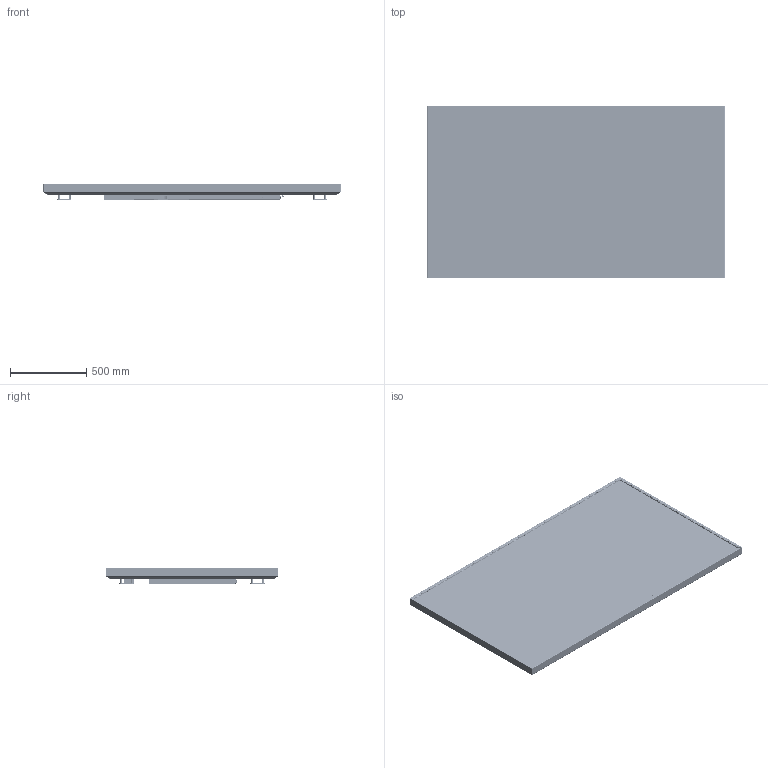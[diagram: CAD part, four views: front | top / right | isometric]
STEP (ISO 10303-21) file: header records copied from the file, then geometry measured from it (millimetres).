
FILE_DESCRIPTION (( 'STEP AP203' ), '1' );
FILE_NAME ('URX85-ERO-T Panel 3D.STEP', '2022-08-16T21:34:06', ( '' ), ( '' ), 'SwSTEP 2.0', 'SolidWorks 2021', '' );
FILE_SCHEMA (( 'CONFIG_CONTROL_DESIGN' ));
Length unit declared in the file: millimetre
Products named in the file (66): 591-0365_bonded; 572-5398; B18.6.7M - M3 x 0.5 x 6 Type I Cross Recessed FHMS --6N_B18.6.7M - M3 x 0.5 x 6 Type I Cross Recessed FHMS --6N; 572-5630; 572-4464; assy_module_p850qvn02v1_v3_190621_Glass_Only; PEM S-M3-1 ZI--N_PEM S-M3-1 ZI--N; 540-0192; PLP2-125 (Lens); 572-5387_Masked; b18.22m - plain washer, 3 mm, wide_B18.22M - Plain washer, 3 mm, wide; 572-5378; BYEASY_UH74; 572-5633; 572-5396_Masked; 105-0022-00; pem bso-3.5m3-14 zi--n_PEM BSO-3.5M3-14 ZI--N; PEM TPS-4mm-16; PEM S-M4-1 ZI--N; PF11MF-M4-1; b18.3.5m - 6 x 1.0 x 40 socket fchs  -- 40n_B18.3.5M - 6 x 1.0 x 40 Socket FCHS  -- 40N; 105-0020-00; pem s-m3-0 zi--n_PEM S-M3-0 ZI--N; 572-5345; 572-5634; 572-5519; RIVET - 093 C''SINK; b18.6.7m - m4 x 0.7 x 6 type i cross recessed fhms --6n blk_B18.6.7M - M4 x 0.7 x 6 Type I Cross Recessed FHMS --6N; 10SS6-B2AHR-QPB; pem so-m3-3 zi--n_PEM SO-M3-3 ZI--N; b18.6.7m - m3 x 0.5 x 6 type i cross recessed phms --6n blk_B18.6.7M - M3 x 0.5 x 6 Type I Cross Recessed PHMS --6N; b18.6.7m - m4 x 0.7 x 6 type i cross recessed phms --6n blk_B18.6.7M - M4 x 0.7 x 6 Type I Cross Recessed PHMS BLK --6N; pem fh-m6-15 zi--n_PEM FH-M6-15 ZI--N; 572-5346; RIVET - 125 BUTTON HEAD; Hayden common tray_Hayden 85; 572-5631; 572-5632; PEM SO-3.5M3-4 ZI--N_PEM SO-3.5M3-4 ZI--N; 437-2443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
Assembly tree (232 placements, depth 6):
  URX85-ERO-T Panel 3D
    assy_module_p850qvn02v1_v3_190621_Glass_Only
    Hayden common tray_Hayden 85
      437-2443
        572-5304
          572-5304_Masked
          pem bso-3.5m3-14 zi--n_PEM BSO-3.5M3-14 ZI--N  x12
          pem so-3.5m3-8 zi--n_PEM SO-3.5M3-8 ZI--N  x9
          pem bso-3.5m3-10 zi--n_PEM BSO-3.5M3-10 ZI--N  x6
          PEM PF11-M4-1-ZI--N  x4
          105-0018-50
            82-35-302-15 spring
            82-35-302-15 base
          RIVET - 093 C''SINK  x2
          pem fh-m6-15 zi--n_PEM FH-M6-15 ZI--N
          PEM S-M4-1 ZI--N  x2
          PEM S-M3-1 ZI--N_PEM S-M3-1 ZI--N  x2
          PEM TPS-4mm-16  x2
        572-5339_Masked
        b18.6.7m - m4 x 0.7 x 6 type i cross recessed phms --6n blk_B18.6.7M - M4 x 0.7 x 6 Type I Cross Recessed PHMS BLK --6N  x2
        572-5345  x6
          572-5345
          pem so-m3-3 zi--n_PEM SO-M3-3 ZI--N
        RIVET - 125 BUTTON HEAD  x12
      10SS6-B2AHR-QPB
      572-5387
        572-5387_Masked
        PF11MF-M4-1  x2
        PEM SO-3.5M3-4 ZI--N_PEM SO-3.5M3-4 ZI--N  x8
        PEM TPS-4mm-8_PreviewCfg  x2
        105-0020-00
        105-0022-00
        82-19-180-16
        B18.6.7M - M3 x 0.5 x 6 Type I Cross Recessed FHMS --6N_B18.6.7M - M3 x 0.5 x 6 Type I Cross Recessed FHMS --6N  x8
        b18.22m - plain washer, 3 mm, wide_B18.22M - Plain washer, 3 mm, wide  x8
      572-5519
      BYEASY_UH74
    b18.6.7m - m4 x 0.7 x 6 type i cross recessed fhms --6n blk_B18.6.7M - M4 x 0.7 x 6 Type I Cross Recessed FHMS --6N  x40
    572-5378  x4
      572-5378
      SPACER, 0.5in OD x 0.25in ID x 1.1875in LG_92414A437
    b18.3.5m - 6 x 1.0 x 40 socket fchs  -- 40n_B18.3.5M - 6 x 1.0 x 40 Socket FCHS  -- 40N  x16
    572-5396_Masked
    572-5397_Masked
    b18.6.7m - m3 x 0.5 x 6 type i cross recessed phms --6n blk_B18.6.7M - M3 x 0.5 x 6 Type I Cross Recessed PHMS --6N  x20
    572-4464
      572-4464
      PLP2-125 (Lens)
    540-0192
    B18.6.7M - M3 x 0.5 x 6 Type I Cross Recessed FHMS --6N BLK_PreviewCfg  x4
    572-5346  x2
      572-5346
      PEM BSO-M5-10 ZI--N
    572-5398
      572-5398
      pem s-m3-0 zi--n_PEM S-M3-0 ZI--N  x3
    927-0066
      591-0365_bonded
    572-5629  x2
    572-5630  x2
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Bounding box: 1955.6 x 1136.6 x 104.19 mm (x, y, z)
Volume: 11173175.6 mm3; surface area: 16818268.8 mm2
Topology: 254 solids, 382 shells, 19050 faces, 52875 edges, 34778 vertices
Faces by surface type: plane 10573, cylinder 5827, bspline 1441, cone 887, torus 204, sphere 118
Entity records: 503400 total; most frequent: CARTESIAN_POINT 143097, ORIENTED_EDGE 73299, DIRECTION 67511, EDGE_CURVE 39039, VECTOR 26895, LINE 26895, VERTEX_POINT 26378, AXIS2_PLACEMENT_3D 20308
